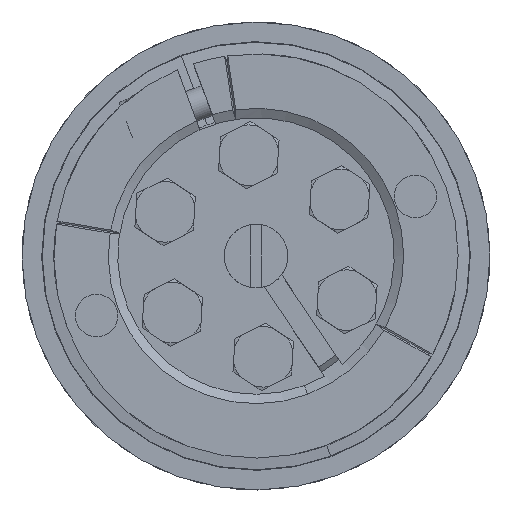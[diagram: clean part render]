
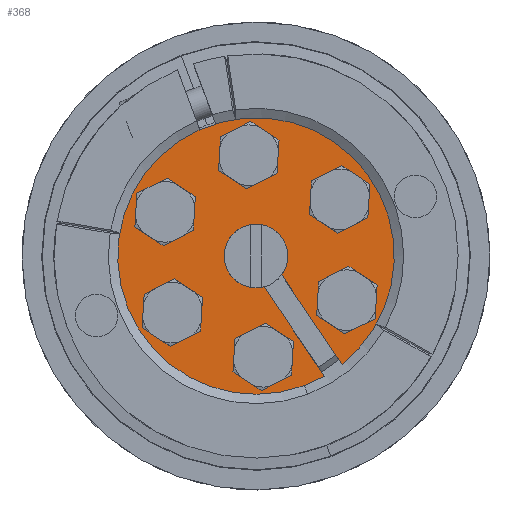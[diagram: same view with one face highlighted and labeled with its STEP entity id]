
A CAD part, front view. The second image highlights one B-rep face of the part: STEP entity #368.
In plain terms, the highlighted planar face has unit normal (0, -1, 0).
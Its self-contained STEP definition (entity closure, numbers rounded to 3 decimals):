
#368=ADVANCED_FACE('',(#1325,#1326,#1327,#1328,#1329,#1330,#1331),#1332,.F.);
#1325=FACE_BOUND('',#2993,.T.);
#1326=FACE_BOUND('',#2994,.T.);
#1327=FACE_BOUND('',#2995,.T.);
#1328=FACE_OUTER_BOUND('',#2996,.T.);
#1329=FACE_BOUND('',#2997,.T.);
#1330=FACE_BOUND('',#2998,.T.);
#1331=FACE_BOUND('',#2999,.T.);
#1332=PLANE('',#3000);
#2501=EDGE_CURVE('',#4462,#4460,#4463,.T.);
#2505=EDGE_CURVE('',#4448,#4468,#4470,.T.);
#2527=EDGE_CURVE('',#4460,#4448,#4504,.T.);
#2993=EDGE_LOOP('',(#6331,#6332));
#2994=EDGE_LOOP('',(#6333,#6334));
#2995=EDGE_LOOP('',(#6335,#6336));
#2996=EDGE_LOOP('',(#6337,#6338,#6339,#6340,#6341,#6342,#6343));
#2997=EDGE_LOOP('',(#6344,#6345));
#2998=EDGE_LOOP('',(#6346,#6347));
#2999=EDGE_LOOP('',(#6348,#6349));
#3000=AXIS2_PLACEMENT_3D('',#6350,#6351,#6352);
#4448=VERTEX_POINT('',#10193);
#4460=VERTEX_POINT('',#10208);
#4462=VERTEX_POINT('',#10211);
#4463=CIRCLE('',#10212,3.0);
#4468=VERTEX_POINT('',#10218);
#4470=CIRCLE('',#10221,3.0);
#4504=CIRCLE('',#10262,3.0);
#6331=ORIENTED_EDGE('',*,*,#10803,.F.);
#6332=ORIENTED_EDGE('',*,*,#11152,.F.);
#6333=ORIENTED_EDGE('',*,*,#10767,.F.);
#6334=ORIENTED_EDGE('',*,*,#11153,.F.);
#6335=ORIENTED_EDGE('',*,*,#10731,.F.);
#6336=ORIENTED_EDGE('',*,*,#11154,.F.);
#6337=ORIENTED_EDGE('',*,*,#2501,.T.);
#6338=ORIENTED_EDGE('',*,*,#2527,.T.);
#6339=ORIENTED_EDGE('',*,*,#2505,.T.);
#6340=ORIENTED_EDGE('',*,*,#11155,.T.);
#6341=ORIENTED_EDGE('',*,*,#11156,.F.);
#6342=ORIENTED_EDGE('',*,*,#10669,.F.);
#6343=ORIENTED_EDGE('',*,*,#11157,.T.);
#6344=ORIENTED_EDGE('',*,*,#10713,.F.);
#6345=ORIENTED_EDGE('',*,*,#11158,.F.);
#6346=ORIENTED_EDGE('',*,*,#10749,.F.);
#6347=ORIENTED_EDGE('',*,*,#11159,.F.);
#6348=ORIENTED_EDGE('',*,*,#10785,.F.);
#6349=ORIENTED_EDGE('',*,*,#11160,.F.);
#6350=CARTESIAN_POINT('',(0.,-73.005,0.));
#6351=DIRECTION('',(0.,1.0,0.));
#6352=DIRECTION('',(0.561,0.,-0.828));
#10193=CARTESIAN_POINT('',(0.,-73.005,3.0));
#10208=CARTESIAN_POINT('',(0.,-73.005,-3.0));
#10211=CARTESIAN_POINT('',(0.757,-73.005,-2.903));
#10212=AXIS2_PLACEMENT_3D('',#14031,#14032,#14033);
#10218=CARTESIAN_POINT('',(2.414,-73.005,-1.782));
#10221=AXIS2_PLACEMENT_3D('',#14039,#14040,#14041);
#10262=AXIS2_PLACEMENT_3D('',#14073,#14074,#14075);
#10669=EDGE_CURVE('',#14818,#14814,#14820,.T.);
#10713=EDGE_CURVE('',#14903,#14906,#14907,.T.);
#10731=EDGE_CURVE('',#14935,#14938,#14939,.T.);
#10749=EDGE_CURVE('',#14967,#14970,#14971,.T.);
#10767=EDGE_CURVE('',#14999,#15002,#15003,.T.);
#10785=EDGE_CURVE('',#15031,#15034,#15035,.T.);
#10803=EDGE_CURVE('',#15063,#15066,#15067,.T.);
#11152=EDGE_CURVE('',#15066,#15063,#15678,.T.);
#11153=EDGE_CURVE('',#15002,#14999,#15679,.T.);
#11154=EDGE_CURVE('',#14938,#14935,#15680,.T.);
#11155=EDGE_CURVE('',#4468,#15681,#15682,.T.);
#11156=EDGE_CURVE('',#14814,#15681,#15683,.T.);
#11157=EDGE_CURVE('',#14818,#4462,#15684,.T.);
#11158=EDGE_CURVE('',#14906,#14903,#15685,.T.);
#11159=EDGE_CURVE('',#14970,#14967,#15686,.T.);
#11160=EDGE_CURVE('',#15034,#15031,#15687,.T.);
#14031=CARTESIAN_POINT('',(0.,-73.005,0.));
#14032=DIRECTION('',(0.,1.0,0.));
#14033=DIRECTION('',(0.,0.,1.0));
#14039=CARTESIAN_POINT('',(0.,-73.005,0.));
#14040=DIRECTION('',(0.,1.0,0.));
#14041=DIRECTION('',(0.,0.,1.0));
#14073=CARTESIAN_POINT('',(0.,-73.005,0.));
#14074=DIRECTION('',(0.,1.0,0.));
#14075=DIRECTION('',(0.,0.,1.0));
#14814=VERTEX_POINT('',#18987);
#14818=VERTEX_POINT('',#18992);
#14820=CIRCLE('',#18995,13.0);
#14903=VERTEX_POINT('',#19098);
#14906=VERTEX_POINT('',#19101);
#14907=CIRCLE('',#19102,1.885);
#14935=VERTEX_POINT('',#19136);
#14938=VERTEX_POINT('',#19139);
#14939=CIRCLE('',#19140,1.885);
#14967=VERTEX_POINT('',#19174);
#14970=VERTEX_POINT('',#19177);
#14971=CIRCLE('',#19178,1.885);
#14999=VERTEX_POINT('',#19212);
#15002=VERTEX_POINT('',#19215);
#15003=CIRCLE('',#19216,1.885);
#15031=VERTEX_POINT('',#19250);
#15034=VERTEX_POINT('',#19253);
#15035=CIRCLE('',#19254,1.885);
#15063=VERTEX_POINT('',#19288);
#15066=VERTEX_POINT('',#19291);
#15067=CIRCLE('',#19292,1.885);
#15678=CIRCLE('',#20914,1.885);
#15679=CIRCLE('',#20915,1.885);
#15680=CIRCLE('',#20916,1.885);
#15681=VERTEX_POINT('',#20917);
#15682=LINE('',#20918,#20919);
#15683=CIRCLE('',#20920,13.0);
#15684=LINE('',#20921,#20922);
#15685=CIRCLE('',#20923,1.885);
#15686=CIRCLE('',#20924,1.885);
#15687=CIRCLE('',#20925,1.885);
#18987=CARTESIAN_POINT('',(-7.287,-73.005,10.766));
#18992=CARTESIAN_POINT('',(6.437,-73.005,-11.294));
#18995=AXIS2_PLACEMENT_3D('',#25435,#25436,#25437);
#19098=CARTESIAN_POINT('',(7.506,-73.005,-5.723));
#19101=CARTESIAN_POINT('',(9.585,-73.005,-2.578));
#19102=AXIS2_PLACEMENT_3D('',#25527,#25528,#25529);
#19136=CARTESIAN_POINT('',(-1.203,-73.005,-9.362));
#19139=CARTESIAN_POINT('',(2.56,-73.005,-9.589));
#19140=AXIS2_PLACEMENT_3D('',#25569,#25570,#25571);
#19174=CARTESIAN_POINT('',(-8.709,-73.005,-3.639));
#19177=CARTESIAN_POINT('',(-7.025,-73.005,-7.012));
#19178=AXIS2_PLACEMENT_3D('',#25611,#25612,#25613);
#19212=CARTESIAN_POINT('',(-7.506,-73.005,5.723));
#19215=CARTESIAN_POINT('',(-9.585,-73.005,2.578));
#19216=AXIS2_PLACEMENT_3D('',#25653,#25654,#25655);
#19250=CARTESIAN_POINT('',(1.203,-73.005,9.362));
#19253=CARTESIAN_POINT('',(-2.56,-73.005,9.589));
#19254=AXIS2_PLACEMENT_3D('',#25695,#25696,#25697);
#19288=CARTESIAN_POINT('',(8.709,-73.005,3.639));
#19291=CARTESIAN_POINT('',(7.025,-73.005,7.012));
#19292=AXIS2_PLACEMENT_3D('',#25737,#25738,#25739);
#20914=AXIS2_PLACEMENT_3D('',#26287,#26288,#26289);
#20915=AXIS2_PLACEMENT_3D('',#26290,#26291,#26292);
#20916=AXIS2_PLACEMENT_3D('',#26293,#26294,#26295);
#20917=CARTESIAN_POINT('',(8.094,-73.005,-10.173));
#20918=CARTESIAN_POINT('',(0.828,-73.005,0.561));
#20919=VECTOR('',#26296,12.961);
#20920=AXIS2_PLACEMENT_3D('',#26297,#26298,#26299);
#20921=CARTESIAN_POINT('',(21.594,-73.005,-33.686));
#20922=VECTOR('',#26300,12.961);
#20923=AXIS2_PLACEMENT_3D('',#26301,#26302,#26303);
#20924=AXIS2_PLACEMENT_3D('',#26304,#26305,#26306);
#20925=AXIS2_PLACEMENT_3D('',#26307,#26308,#26309);
#25435=CARTESIAN_POINT('',(0.,-73.005,0.));
#25436=DIRECTION('',(0.,1.0,0.));
#25437=DIRECTION('',(0.561,0.,-0.828));
#25527=CARTESIAN_POINT('',(8.545,-73.005,-4.151));
#25528=DIRECTION('',(0.,-1.0,0.));
#25529=DIRECTION('',(0.0,0.,-1.0));
#25569=CARTESIAN_POINT('',(0.678,-73.005,-9.476));
#25570=DIRECTION('',(0.,-1.0,0.));
#25571=DIRECTION('',(0.0,0.,-1.0));
#25611=CARTESIAN_POINT('',(-7.867,-73.005,-5.325));
#25612=DIRECTION('',(0.,-1.0,0.));
#25613=DIRECTION('',(0.0,0.,-1.0));
#25653=CARTESIAN_POINT('',(-8.545,-73.005,4.151));
#25654=DIRECTION('',(0.,-1.0,0.));
#25655=DIRECTION('',(0.0,0.,-1.0));
#25695=CARTESIAN_POINT('',(-0.678,-73.005,9.476));
#25696=DIRECTION('',(0.,-1.0,0.));
#25697=DIRECTION('',(0.0,0.,-1.0));
#25737=CARTESIAN_POINT('',(7.867,-73.005,5.325));
#25738=DIRECTION('',(0.,-1.0,0.));
#25739=DIRECTION('',(0.0,0.,-1.0));
#26287=CARTESIAN_POINT('',(7.867,-73.005,5.325));
#26288=DIRECTION('',(0.,-1.0,0.));
#26289=DIRECTION('',(0.0,0.,-1.0));
#26290=CARTESIAN_POINT('',(-8.545,-73.005,4.151));
#26291=DIRECTION('',(0.,-1.0,0.));
#26292=DIRECTION('',(0.0,0.,-1.0));
#26293=CARTESIAN_POINT('',(0.678,-73.005,-9.476));
#26294=DIRECTION('',(0.,-1.0,0.));
#26295=DIRECTION('',(0.0,0.,-1.0));
#26296=DIRECTION('',(0.561,0.,-0.828));
#26297=CARTESIAN_POINT('',(0.,-73.005,0.));
#26298=DIRECTION('',(0.,1.0,0.));
#26299=DIRECTION('',(0.561,0.,-0.828));
#26300=DIRECTION('',(-0.561,0.,0.828));
#26301=CARTESIAN_POINT('',(8.545,-73.005,-4.151));
#26302=DIRECTION('',(0.,-1.0,0.));
#26303=DIRECTION('',(0.0,0.,-1.0));
#26304=CARTESIAN_POINT('',(-7.867,-73.005,-5.325));
#26305=DIRECTION('',(0.,-1.0,0.));
#26306=DIRECTION('',(0.0,0.,-1.0));
#26307=CARTESIAN_POINT('',(-0.678,-73.005,9.476));
#26308=DIRECTION('',(0.,-1.0,0.));
#26309=DIRECTION('',(0.0,0.,-1.0));
